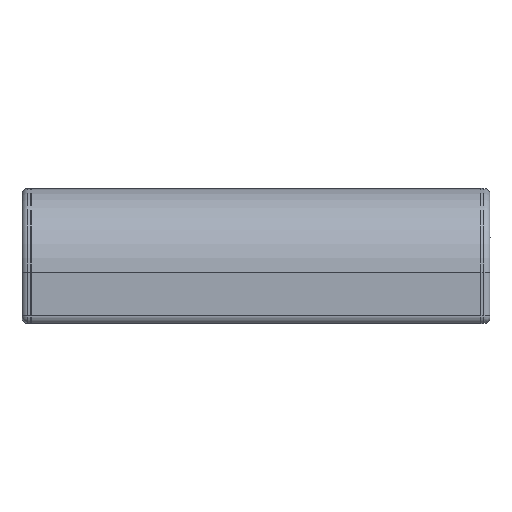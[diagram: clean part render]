
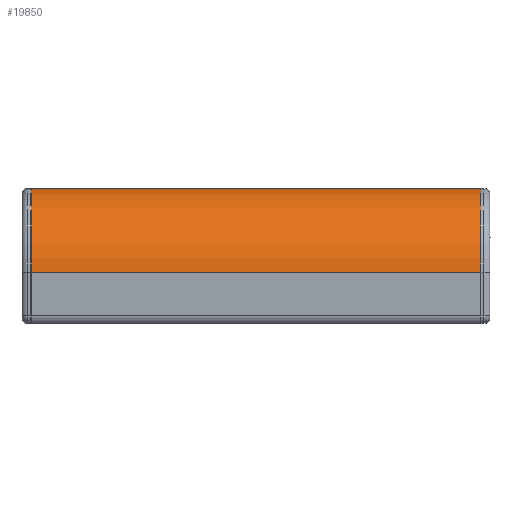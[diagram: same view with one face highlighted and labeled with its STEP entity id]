
A CAD part, top view. The second image highlights one B-rep face of the part: STEP entity #19850.
In plain terms, the highlighted cylindrical face has radius 28 mm (diameter 56 mm), a partial arc.
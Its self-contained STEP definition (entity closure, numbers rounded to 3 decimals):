
#669 = DIRECTION ( 'NONE',  ( 1., 0., 0. ) ) ;
#843 = LINE ( 'NONE', #10083, #21570 ) ;
#2273 = EDGE_CURVE ( 'NONE', #24976, #12445, #13552, .T. ) ;
#3143 = ORIENTED_EDGE ( 'NONE', *, *, #2273, .T. ) ;
#3620 = VERTEX_POINT ( 'NONE', #17748 ) ;
#5672 = LINE ( 'NONE', #8429, #24155 ) ;
#5893 = CARTESIAN_POINT ( 'NONE',  ( 74.958, 5.985, -19.781 ) ) ;
#7854 = DIRECTION ( 'NONE',  ( -1., 0., 0. ) ) ;
#8429 = CARTESIAN_POINT ( 'NONE',  ( 174.958, 33.985, -19.781 ) ) ;
#8511 = FACE_OUTER_BOUND ( 'NONE', #29018, .T. ) ;
#9138 = CARTESIAN_POINT ( 'NONE',  ( 74.958, 5.985, 8.219 ) ) ;
#10083 = CARTESIAN_POINT ( 'NONE',  ( 174.958, 5.985, 8.219 ) ) ;
#10290 = CARTESIAN_POINT ( 'NONE',  ( 174.958, 5.985, -19.781 ) ) ;
#10903 = ORIENTED_EDGE ( 'NONE', *, *, #11155, .T. ) ;
#11155 = EDGE_CURVE ( 'NONE', #3620, #24976, #5672, .T. ) ;
#11767 = EDGE_CURVE ( 'NONE', #16635, #12445, #843, .T. ) ;
#12387 = CIRCLE ( 'NONE', #20335, 28. ) ;
#12445 = VERTEX_POINT ( 'NONE', #27925 ) ;
#13552 = CIRCLE ( 'NONE', #28106, 28. ) ;
#13988 = ORIENTED_EDGE ( 'NONE', *, *, #15328, .F. ) ;
#14379 = CARTESIAN_POINT ( 'NONE',  ( -75.042, 33.985, -19.781 ) ) ;
#15328 = EDGE_CURVE ( 'NONE', #3620, #16635, #12387, .T. ) ;
#15398 = DIRECTION ( 'NONE',  ( -1., 0., 0. ) ) ;
#16212 = DIRECTION ( 'NONE',  ( -1., 0., 0. ) ) ;
#16635 = VERTEX_POINT ( 'NONE', #9138 ) ;
#17030 = CYLINDRICAL_SURFACE ( 'NONE', #20228, 28. ) ;
#17032 = DIRECTION ( 'NONE',  ( 1., 0., 0. ) ) ;
#17445 = DIRECTION ( 'NONE',  ( 0., 0., 1. ) ) ;
#17748 = CARTESIAN_POINT ( 'NONE',  ( 74.958, 33.985, -19.781 ) ) ;
#19850 = ADVANCED_FACE ( 'NONE', ( #8511 ), #17030, .T. ) ;
#20228 = AXIS2_PLACEMENT_3D ( 'NONE', #10290, #15398, #17445 ) ;
#20335 = AXIS2_PLACEMENT_3D ( 'NONE', #5893, #17032, #26026 ) ;
#20923 = ORIENTED_EDGE ( 'NONE', *, *, #11767, .F. ) ;
#21570 = VECTOR ( 'NONE', #16212, 1000. ) ;
#24155 = VECTOR ( 'NONE', #7854, 1000. ) ;
#24876 = DIRECTION ( 'NONE',  ( 0., 0., -1. ) ) ;
#24976 = VERTEX_POINT ( 'NONE', #14379 ) ;
#26026 = DIRECTION ( 'NONE',  ( 0., 0., -1. ) ) ;
#27673 = CARTESIAN_POINT ( 'NONE',  ( -75.042, 5.985, -19.781 ) ) ;
#27925 = CARTESIAN_POINT ( 'NONE',  ( -75.042, 5.985, 8.219 ) ) ;
#28106 = AXIS2_PLACEMENT_3D ( 'NONE', #27673, #669, #24876 ) ;
#29018 = EDGE_LOOP ( 'NONE', ( #20923, #13988, #10903, #3143 ) ) ;
